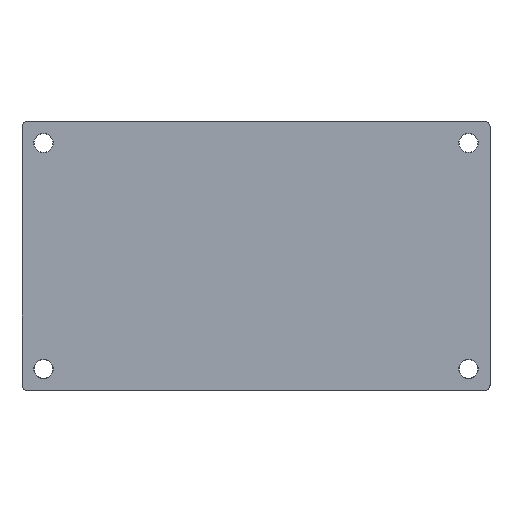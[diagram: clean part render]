
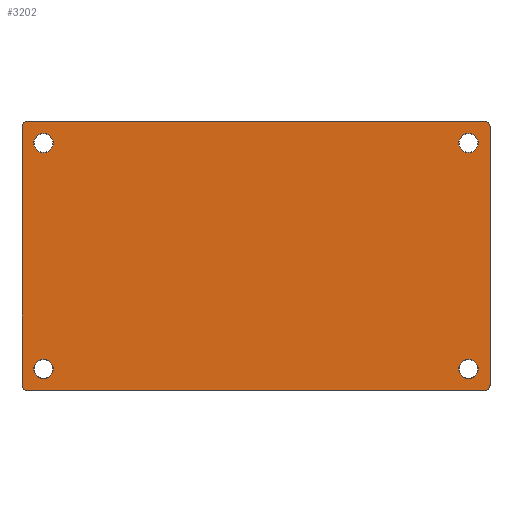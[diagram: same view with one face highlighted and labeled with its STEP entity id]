
A CAD part, top view. The second image highlights one B-rep face of the part: STEP entity #3202.
In plain terms, the highlighted planar face has unit normal (0, 0, 1).
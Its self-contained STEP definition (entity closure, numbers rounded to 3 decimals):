
#337=DIRECTION('',(0.,-1.,0.));
#338=VECTOR('',#337,48.);
#339=CARTESIAN_POINT('',(-4.,45.01,7.098));
#340=LINE('',#339,#338);
#344=CARTESIAN_POINT('',(-3.,45.01,7.098));
#345=DIRECTION('',(0.,0.,1.));
#346=DIRECTION('',(0.,1.,0.));
#347=AXIS2_PLACEMENT_3D('',#344,#345,#346);
#352=DIRECTION('',(-1.,0.,0.));
#353=VECTOR('',#352,85.);
#354=CARTESIAN_POINT('',(82.,46.01,7.098));
#355=LINE('',#354,#353);
#359=CARTESIAN_POINT('',(82.,45.01,7.098));
#360=DIRECTION('',(0.,0.,1.));
#361=DIRECTION('',(1.,0.,0.));
#362=AXIS2_PLACEMENT_3D('',#359,#360,#361);
#367=DIRECTION('',(0.,1.,0.));
#368=VECTOR('',#367,48.);
#369=CARTESIAN_POINT('',(83.,-2.99,7.098));
#370=LINE('',#369,#368);
#374=CARTESIAN_POINT('',(82.,-2.99,7.098));
#375=DIRECTION('',(0.,0.,1.));
#376=DIRECTION('',(0.,-1.,0.));
#377=AXIS2_PLACEMENT_3D('',#374,#375,#376);
#382=DIRECTION('',(1.,0.,0.));
#383=VECTOR('',#382,85.);
#384=CARTESIAN_POINT('',(-3.,-3.99,7.098));
#385=LINE('',#384,#383);
#389=CARTESIAN_POINT('',(-3.,-2.99,7.098));
#390=DIRECTION('',(0.,0.,1.));
#391=DIRECTION('',(-1.,0.,0.));
#392=AXIS2_PLACEMENT_3D('',#389,#390,#391);
#397=CARTESIAN_POINT('',(0.,42.01,7.098));
#398=DIRECTION('',(0.,0.,1.));
#399=DIRECTION('',(1.,0.,0.));
#400=AXIS2_PLACEMENT_3D('',#397,#398,#399);
#405=CARTESIAN_POINT('',(0.,42.01,7.098));
#406=DIRECTION('',(0.,0.,1.));
#407=DIRECTION('',(-1.,0.,0.));
#408=AXIS2_PLACEMENT_3D('',#405,#406,#407);
#413=CARTESIAN_POINT('',(79.,0.01,7.098));
#414=DIRECTION('',(0.,0.,1.));
#415=DIRECTION('',(1.,0.,0.));
#416=AXIS2_PLACEMENT_3D('',#413,#414,#415);
#421=CARTESIAN_POINT('',(79.,0.01,7.098));
#422=DIRECTION('',(0.,0.,1.));
#423=DIRECTION('',(-1.,0.,0.));
#424=AXIS2_PLACEMENT_3D('',#421,#422,#423);
#429=CARTESIAN_POINT('',(0.,0.01,7.098));
#430=DIRECTION('',(0.,0.,1.));
#431=DIRECTION('',(1.,0.,0.));
#432=AXIS2_PLACEMENT_3D('',#429,#430,#431);
#437=CARTESIAN_POINT('',(0.,0.01,7.098));
#438=DIRECTION('',(0.,0.,1.));
#439=DIRECTION('',(-1.,0.,0.));
#440=AXIS2_PLACEMENT_3D('',#437,#438,#439);
#445=CARTESIAN_POINT('',(79.,42.01,7.098));
#446=DIRECTION('',(0.,0.,1.));
#447=DIRECTION('',(1.,0.,0.));
#448=AXIS2_PLACEMENT_3D('',#445,#446,#447);
#453=CARTESIAN_POINT('',(79.,42.01,7.098));
#454=DIRECTION('',(0.,0.,1.));
#455=DIRECTION('',(-1.,0.,0.));
#456=AXIS2_PLACEMENT_3D('',#453,#454,#455);
#2534=CARTESIAN_POINT('',(-4.,45.01,7.098));
#2535=CARTESIAN_POINT('',(-4.,-2.99,7.098));
#2536=VERTEX_POINT('',#2534);
#2537=VERTEX_POINT('',#2535);
#2538=CARTESIAN_POINT('',(-3.,-3.99,7.098));
#2539=VERTEX_POINT('',#2538);
#2540=CARTESIAN_POINT('',(82.,-3.99,7.098));
#2541=VERTEX_POINT('',#2540);
#2542=CARTESIAN_POINT('',(83.,-2.99,7.098));
#2543=VERTEX_POINT('',#2542);
#2544=CARTESIAN_POINT('',(83.,45.01,7.098));
#2545=VERTEX_POINT('',#2544);
#2546=CARTESIAN_POINT('',(82.,46.01,7.098));
#2547=VERTEX_POINT('',#2546);
#2548=CARTESIAN_POINT('',(-3.,46.01,7.098));
#2549=VERTEX_POINT('',#2548);
#2550=CARTESIAN_POINT('',(1.8,42.01,7.098));
#2551=CARTESIAN_POINT('',(-1.8,42.01,7.098));
#2552=VERTEX_POINT('',#2550);
#2553=VERTEX_POINT('',#2551);
#2554=CARTESIAN_POINT('',(80.8,0.01,7.098));
#2555=CARTESIAN_POINT('',(77.2,0.01,7.098));
#2556=VERTEX_POINT('',#2554);
#2557=VERTEX_POINT('',#2555);
#2558=CARTESIAN_POINT('',(1.8,0.01,7.098));
#2559=CARTESIAN_POINT('',(-1.8,0.01,7.098));
#2560=VERTEX_POINT('',#2558);
#2561=VERTEX_POINT('',#2559);
#2562=CARTESIAN_POINT('',(80.8,42.01,7.098));
#2563=CARTESIAN_POINT('',(77.2,42.01,7.098));
#2564=VERTEX_POINT('',#2562);
#2565=VERTEX_POINT('',#2563);
#3163=CARTESIAN_POINT('',(0.,0.,7.098));
#3164=DIRECTION('',(0.,0.,1.));
#3165=DIRECTION('',(1.,0.,0.));
#3166=AXIS2_PLACEMENT_3D('',#3163,#3164,#3165);
#3167=PLANE('',#3166);
#3168=ORIENTED_EDGE('',*,*,#3059,.F.);
#3169=ORIENTED_EDGE('',*,*,#3074,.F.);
#3170=ORIENTED_EDGE('',*,*,#3088,.F.);
#3171=ORIENTED_EDGE('',*,*,#3102,.F.);
#3172=ORIENTED_EDGE('',*,*,#3116,.F.);
#3173=ORIENTED_EDGE('',*,*,#3130,.F.);
#3174=ORIENTED_EDGE('',*,*,#3144,.F.);
#3175=ORIENTED_EDGE('',*,*,#3157,.F.);
#3176=EDGE_LOOP('',(#3168,#3169,#3170,#3171,#3172,#3173,#3174,#3175));
#3177=FACE_OUTER_BOUND('',#3176,.F.);
#3179=ORIENTED_EDGE('',*,*,#3178,.T.);
#3181=ORIENTED_EDGE('',*,*,#3180,.T.);
#3182=EDGE_LOOP('',(#3179,#3181));
#3183=FACE_BOUND('',#3182,.F.);
#3185=ORIENTED_EDGE('',*,*,#3184,.T.);
#3187=ORIENTED_EDGE('',*,*,#3186,.T.);
#3188=EDGE_LOOP('',(#3185,#3187));
#3189=FACE_BOUND('',#3188,.F.);
#3191=ORIENTED_EDGE('',*,*,#3190,.T.);
#3193=ORIENTED_EDGE('',*,*,#3192,.T.);
#3194=EDGE_LOOP('',(#3191,#3193));
#3195=FACE_BOUND('',#3194,.F.);
#3197=ORIENTED_EDGE('',*,*,#3196,.T.);
#3199=ORIENTED_EDGE('',*,*,#3198,.T.);
#3200=EDGE_LOOP('',(#3197,#3199));
#3201=FACE_BOUND('',#3200,.F.);
#3202=ADVANCED_FACE('',(#3177,#3183,#3189,#3195,#3201),#3167,.T.);
#348=CIRCLE('',#347,1.);
#363=CIRCLE('',#362,1.);
#378=CIRCLE('',#377,1.);
#393=CIRCLE('',#392,1.);
#401=CIRCLE('',#400,1.8);
#409=CIRCLE('',#408,1.8);
#417=CIRCLE('',#416,1.8);
#425=CIRCLE('',#424,1.8);
#433=CIRCLE('',#432,1.8);
#441=CIRCLE('',#440,1.8);
#449=CIRCLE('',#448,1.8);
#457=CIRCLE('',#456,1.8);
#3059=EDGE_CURVE('',#2536,#2537,#340,.T.);
#3074=EDGE_CURVE('',#2549,#2536,#348,.T.);
#3088=EDGE_CURVE('',#2547,#2549,#355,.T.);
#3102=EDGE_CURVE('',#2545,#2547,#363,.T.);
#3116=EDGE_CURVE('',#2543,#2545,#370,.T.);
#3130=EDGE_CURVE('',#2541,#2543,#378,.T.);
#3144=EDGE_CURVE('',#2539,#2541,#385,.T.);
#3157=EDGE_CURVE('',#2537,#2539,#393,.T.);
#3178=EDGE_CURVE('',#2552,#2553,#401,.T.);
#3180=EDGE_CURVE('',#2553,#2552,#409,.T.);
#3184=EDGE_CURVE('',#2556,#2557,#417,.T.);
#3186=EDGE_CURVE('',#2557,#2556,#425,.T.);
#3190=EDGE_CURVE('',#2560,#2561,#433,.T.);
#3192=EDGE_CURVE('',#2561,#2560,#441,.T.);
#3196=EDGE_CURVE('',#2564,#2565,#449,.T.);
#3198=EDGE_CURVE('',#2565,#2564,#457,.T.);
